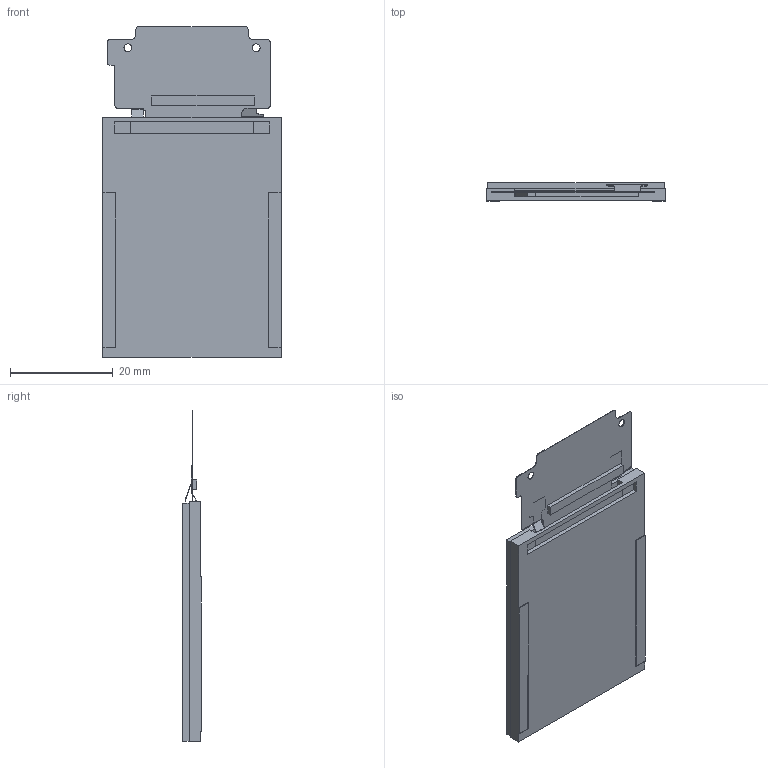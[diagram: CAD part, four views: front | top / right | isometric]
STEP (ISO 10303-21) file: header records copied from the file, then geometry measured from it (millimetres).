
FILE_DESCRIPTION (( 'STEP AP214' ), '1' );
FILE_NAME ('NHD-1.8-128160EF-CTXI#-T.STEP', '2017-05-19T14:41:46', ( '' ), ( '' ), 'SwSTEP 2.0', 'SolidWorks 2015', '' );
FILE_SCHEMA (( 'AUTOMOTIVE_DESIGN' ));
Length unit declared in the file: millimetre
Products named in the file (5): RTP; NHD-18-128160EF-CTXI_ASM; FPC-111; MOUDLE; NHD-1.8-128160EF-CTXI#-T
Assembly tree (4 placements, depth 3):
  NHD-1.8-128160EF-CTXI#-T
    NHD-18-128160EF-CTXI_ASM
      MOUDLE
      FPC-111
    RTP
Bounding box: 34.7 x 3.55 x 64.38 mm (x, y, z)
Volume: 5400 mm3; surface area: 8749.9 mm2
Topology: 3 solids, 3 shells, 124 faces, 327 edges, 216 vertices
Faces by surface type: plane 100, cylinder 24
Entity records: 3971 total; most frequent: CARTESIAN_POINT 699, ORIENTED_EDGE 654, DIRECTION 623, EDGE_CURVE 327, LINE 279, VECTOR 279, VERTEX_POINT 216, AXIS2_PLACEMENT_3D 172
